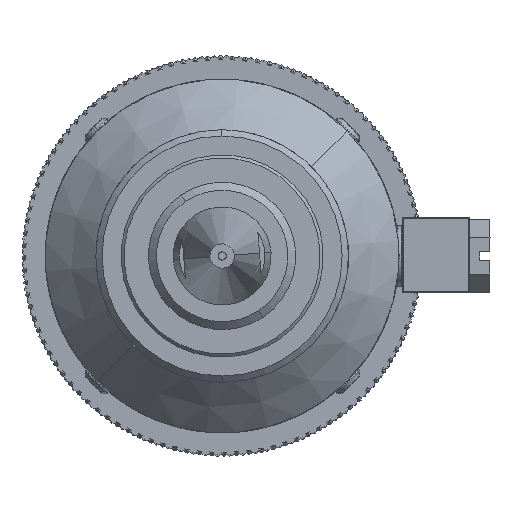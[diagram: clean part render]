
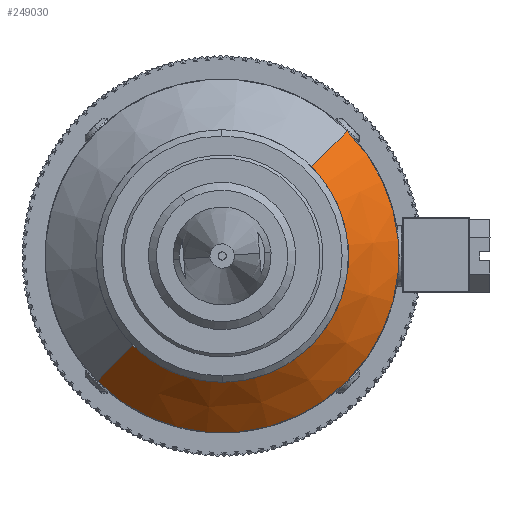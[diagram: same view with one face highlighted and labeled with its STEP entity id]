
A CAD part, front view. The second image highlights one B-rep face of the part: STEP entity #249030.
In plain terms, the highlighted conical face has half-angle 45 degrees and reference radius 15.875 mm.
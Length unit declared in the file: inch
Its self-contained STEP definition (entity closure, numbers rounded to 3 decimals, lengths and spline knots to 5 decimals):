
#1226 = EDGE_CURVE ( 'NONE', #60249, #178108, #152349, .T. ) ;
#11347 = DIRECTION ( 'NONE',  ( 0., 1., 0. ) ) ;
#11889 = FACE_OUTER_BOUND ( 'NONE', #165275, .T. ) ;
#15991 = ORIENTED_EDGE ( 'NONE', *, *, #139417, .T. ) ;
#22250 = VECTOR ( 'NONE', #75571, 39.37008 ) ;
#32868 = DIRECTION ( 'NONE',  ( -0.707, 0., -0.707 ) ) ;
#37956 = ORIENTED_EDGE ( 'NONE', *, *, #1226, .F. ) ;
#54858 = CARTESIAN_POINT ( 'NONE',  ( 0.54859, -0.4215, 1.41944 ) ) ;
#60249 = VERTEX_POINT ( 'NONE', #120153 ) ;
#62490 = DIRECTION ( 'NONE',  ( 0., -1., 0. ) ) ;
#72082 = ORIENTED_EDGE ( 'NONE', *, *, #84105, .F. ) ;
#73382 = CARTESIAN_POINT ( 'NONE',  ( 0.10665, -0.4215, 0.9775 ) ) ;
#75571 = DIRECTION ( 'NONE',  ( 0.5, 0.707, 0.5 ) ) ;
#83429 = VERTEX_POINT ( 'NONE', #140754 ) ;
#84105 = EDGE_CURVE ( 'NONE', #178108, #196164, #186883, .T. ) ;
#86616 = LINE ( 'NONE', #244209, #196672 ) ;
#120153 = CARTESIAN_POINT ( 'NONE',  ( -0.33529, -0.4215, 0.53556 ) ) ;
#120351 = DIRECTION ( 'NONE',  ( -0.5, 0.707, -0.5 ) ) ;
#126137 = DIRECTION ( 'NONE',  ( 0., -1., 0. ) ) ;
#127894 = AXIS2_PLACEMENT_3D ( 'NONE', #155913, #126137, #148364 ) ;
#139417 = EDGE_CURVE ( 'NONE', #83429, #196164, #204177, .T. ) ;
#140754 = CARTESIAN_POINT ( 'NONE',  ( -0.51207, -0.1715, 0.35878 ) ) ;
#143350 = CARTESIAN_POINT ( 'NONE',  ( 0.54859, -0.4215, 1.41944 ) ) ;
#143960 = CONICAL_SURFACE ( 'NONE', #218554, 0.625, 0.785 ) ;
#148364 = DIRECTION ( 'NONE',  ( 0.707, 0., 0.707 ) ) ;
#152349 = CIRCLE ( 'NONE', #127894, 0.625 ) ;
#155913 = CARTESIAN_POINT ( 'NONE',  ( 0.10665, -0.4215, 0.9775 ) ) ;
#165275 = EDGE_LOOP ( 'NONE', ( #72082, #37956, #195001, #15991 ) ) ;
#178108 = VERTEX_POINT ( 'NONE', #143350 ) ;
#186166 = CARTESIAN_POINT ( 'NONE',  ( 0.10665, -0.1715, 0.9775 ) ) ;
#186883 = LINE ( 'NONE', #54858, #22250 ) ;
#195001 = ORIENTED_EDGE ( 'NONE', *, *, #208746, .T. ) ;
#196164 = VERTEX_POINT ( 'NONE', #201758 ) ;
#196672 = VECTOR ( 'NONE', #120351, 39.37008 ) ;
#201758 = CARTESIAN_POINT ( 'NONE',  ( 0.72537, -0.1715, 1.59622 ) ) ;
#204177 = CIRCLE ( 'NONE', #249651, 0.875 ) ;
#206972 = DIRECTION ( 'NONE',  ( 0.707, 0., 0.707 ) ) ;
#208746 = EDGE_CURVE ( 'NONE', #60249, #83429, #86616, .T. ) ;
#218554 = AXIS2_PLACEMENT_3D ( 'NONE', #73382, #11347, #32868 ) ;
#244209 = CARTESIAN_POINT ( 'NONE',  ( -0.33529, -0.4215, 0.53556 ) ) ;
#249030 = ADVANCED_FACE ( 'NONE', ( #11889 ), #143960, .T. ) ;
#249651 = AXIS2_PLACEMENT_3D ( 'NONE', #186166, #62490, #206972 ) ;
